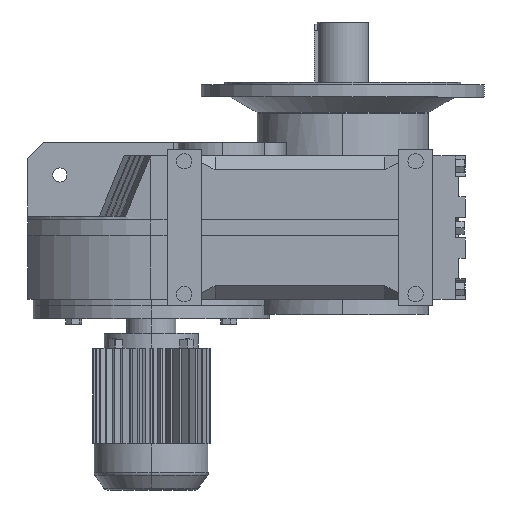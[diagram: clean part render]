
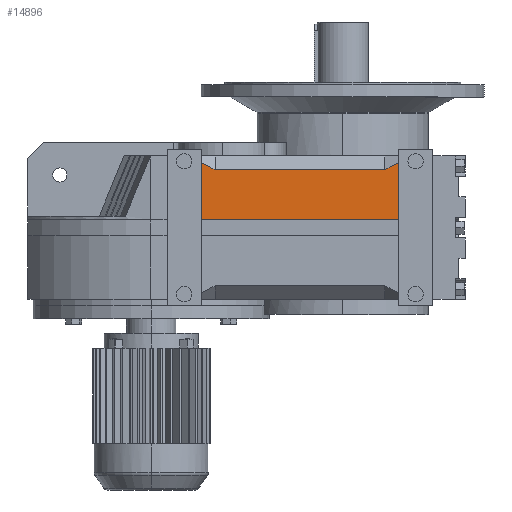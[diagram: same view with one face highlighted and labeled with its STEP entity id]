
A CAD part, left-side view. The second image highlights one B-rep face of the part: STEP entity #14896.
In plain terms, the highlighted planar face has unit normal (-1, 0, 0).
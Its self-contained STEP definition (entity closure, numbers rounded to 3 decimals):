
#314 = PLANE('',#315);
#315 = AXIS2_PLACEMENT_3D('',#316,#317,#318);
#316 = CARTESIAN_POINT('',(-260.44,-117.,0.));
#317 = DIRECTION('',(0.,-1.,0.));
#318 = DIRECTION('',(1.,0.,0.));
#342 = PLANE('',#343);
#343 = AXIS2_PLACEMENT_3D('',#344,#345,#346);
#344 = CARTESIAN_POINT('',(-454.896,-117.,194.456));
#345 = DIRECTION('',(-0.664,-0.342,0.664));
#346 = DIRECTION('',(0.707,0.,0.707)
  );
#370 = PLANE('',#371);
#371 = AXIS2_PLACEMENT_3D('',#372,#373,#374);
#372 = CARTESIAN_POINT('',(-283.44,1.,349.44));
#373 = DIRECTION('',(-0.707,0.,0.707
    ));
#374 = DIRECTION('',(0.707,0.,0.707));
#398 = PLANE('',#399);
#399 = AXIS2_PLACEMENT_3D('',#400,#401,#402);
#400 = CARTESIAN_POINT('',(-454.896,-577.,194.456));
#401 = DIRECTION('',(-0.664,0.342,0.664));
#402 = DIRECTION('',(0.707,0.,0.707));
#426 = PLANE('',#427);
#427 = AXIS2_PLACEMENT_3D('',#428,#429,#430);
#428 = CARTESIAN_POINT('',(-260.44,-577.,0.));
#429 = DIRECTION('',(0.,1.,0.));
#430 = DIRECTION('',(-1.,0.,0.));
#5309 = VERTEX_POINT('',#5310);
#5310 = CARTESIAN_POINT('',(-315.44,-545.,317.44));
#5331 = EDGE_CURVE('',#5332,#5309,#5334,.T.);
#5332 = VERTEX_POINT('',#5333);
#5333 = CARTESIAN_POINT('',(-315.44,-577.,333.911));
#5334 = SURFACE_CURVE('',#5335,(#5339,#5346),.PCURVE_S1.);
#5335 = LINE('',#5336,#5337);
#5336 = CARTESIAN_POINT('',(-315.44,-706.644,400.643));
#5337 = VECTOR('',#5338,1.);
#5338 = DIRECTION('',(0.,0.889,
    -0.458));
#5339 = PCURVE('',#398,#5340);
#5340 = DEFINITIONAL_REPRESENTATION('',(#5341),#5345);
#5341 = LINE('',#5342,#5343);
#5342 = CARTESIAN_POINT('',(244.407,-137.964));
#5343 = VECTOR('',#5344,1.);
#5344 = DIRECTION('',(-0.324,0.946));
#5345 = ( GEOMETRIC_REPRESENTATION_CONTEXT(2) 
PARAMETRIC_REPRESENTATION_CONTEXT() REPRESENTATION_CONTEXT('2D SPACE',''
  ) );
#5346 = PCURVE('',#5347,#5352);
#5347 = PLANE('',#5348);
#5348 = AXIS2_PLACEMENT_3D('',#5349,#5350,#5351);
#5349 = CARTESIAN_POINT('',(-315.44,-733.,349.44));
#5350 = DIRECTION('',(1.,0.,0.));
#5351 = DIRECTION('',(0.,1.,0.));
#5352 = DEFINITIONAL_REPRESENTATION('',(#5353),#5357);
#5353 = LINE('',#5354,#5355);
#5354 = CARTESIAN_POINT('',(26.356,51.203));
#5355 = VECTOR('',#5356,1.);
#5356 = DIRECTION('',(0.889,-0.458));
#5357 = ( GEOMETRIC_REPRESENTATION_CONTEXT(2) 
PARAMETRIC_REPRESENTATION_CONTEXT() REPRESENTATION_CONTEXT('2D SPACE',''
  ) );
#6374 = VERTEX_POINT('',#6375);
#6375 = CARTESIAN_POINT('',(-315.44,-149.,317.44));
#6396 = EDGE_CURVE('',#5309,#6374,#6397,.T.);
#6397 = SURFACE_CURVE('',#6398,(#6402,#6409),.PCURVE_S1.);
#6398 = LINE('',#6399,#6400);
#6399 = CARTESIAN_POINT('',(-315.44,-117.,317.44));
#6400 = VECTOR('',#6401,1.);
#6401 = DIRECTION('',(0.,1.,0.));
#6402 = PCURVE('',#370,#6403);
#6403 = DEFINITIONAL_REPRESENTATION('',(#6404),#6408);
#6404 = LINE('',#6405,#6406);
#6405 = CARTESIAN_POINT('',(-45.255,-118.));
#6406 = VECTOR('',#6407,1.);
#6407 = DIRECTION('',(0.,1.));
#6408 = ( GEOMETRIC_REPRESENTATION_CONTEXT(2) 
PARAMETRIC_REPRESENTATION_CONTEXT() REPRESENTATION_CONTEXT('2D SPACE',''
  ) );
#6409 = PCURVE('',#5347,#6410);
#6410 = DEFINITIONAL_REPRESENTATION('',(#6411),#6415);
#6411 = LINE('',#6412,#6413);
#6412 = CARTESIAN_POINT('',(616.,-32.));
#6413 = VECTOR('',#6414,1.);
#6414 = DIRECTION('',(1.,0.));
#6415 = ( GEOMETRIC_REPRESENTATION_CONTEXT(2) 
PARAMETRIC_REPRESENTATION_CONTEXT() REPRESENTATION_CONTEXT('2D SPACE',''
  ) );
#7068 = EDGE_CURVE('',#7069,#5332,#7071,.T.);
#7069 = VERTEX_POINT('',#7070);
#7070 = CARTESIAN_POINT('',(-315.44,-577.,200.2));
#7071 = SURFACE_CURVE('',#7072,(#7076,#7083),.PCURVE_S1.);
#7072 = LINE('',#7073,#7074);
#7073 = CARTESIAN_POINT('',(-315.44,-577.,349.44));
#7074 = VECTOR('',#7075,1.);
#7075 = DIRECTION('',(0.,0.,1.));
#7076 = PCURVE('',#426,#7077);
#7077 = DEFINITIONAL_REPRESENTATION('',(#7078),#7082);
#7078 = LINE('',#7079,#7080);
#7079 = CARTESIAN_POINT('',(55.,349.44));
#7080 = VECTOR('',#7081,1.);
#7081 = DIRECTION('',(0.,1.));
#7082 = ( GEOMETRIC_REPRESENTATION_CONTEXT(2) 
PARAMETRIC_REPRESENTATION_CONTEXT() REPRESENTATION_CONTEXT('2D SPACE',''
  ) );
#7083 = PCURVE('',#5347,#7084);
#7084 = DEFINITIONAL_REPRESENTATION('',(#7085),#7089);
#7085 = LINE('',#7086,#7087);
#7086 = CARTESIAN_POINT('',(156.,0.));
#7087 = VECTOR('',#7088,1.);
#7088 = DIRECTION('',(0.,1.));
#7089 = ( GEOMETRIC_REPRESENTATION_CONTEXT(2) 
PARAMETRIC_REPRESENTATION_CONTEXT() REPRESENTATION_CONTEXT('2D SPACE',''
  ) );
#7107 = PLANE('',#7108);
#7108 = AXIS2_PLACEMENT_3D('',#7109,#7110,#7111);
#7109 = CARTESIAN_POINT('',(14.732,1.,200.2));
#7110 = DIRECTION('',(0.,0.,-1.));
#7111 = DIRECTION('',(-1.,0.,0.));
#8261 = EDGE_CURVE('',#6374,#8262,#8264,.T.);
#8262 = VERTEX_POINT('',#8263);
#8263 = CARTESIAN_POINT('',(-315.44,-117.,333.911));
#8264 = SURFACE_CURVE('',#8265,(#8269,#8276),.PCURVE_S1.);
#8265 = LINE('',#8266,#8267);
#8266 = CARTESIAN_POINT('',(-315.44,-597.657,86.502));
#8267 = VECTOR('',#8268,1.);
#8268 = DIRECTION('',(0.,0.889,0.458
    ));
#8269 = PCURVE('',#342,#8270);
#8270 = DEFINITIONAL_REPRESENTATION('',(#8271),#8275);
#8271 = LINE('',#8272,#8273);
#8272 = CARTESIAN_POINT('',(22.275,-511.505));
#8273 = VECTOR('',#8274,1.);
#8274 = DIRECTION('',(0.324,0.946));
#8275 = ( GEOMETRIC_REPRESENTATION_CONTEXT(2) 
PARAMETRIC_REPRESENTATION_CONTEXT() REPRESENTATION_CONTEXT('2D SPACE',''
  ) );
#8276 = PCURVE('',#5347,#8277);
#8277 = DEFINITIONAL_REPRESENTATION('',(#8278),#8282);
#8278 = LINE('',#8279,#8280);
#8279 = CARTESIAN_POINT('',(135.343,-262.938));
#8280 = VECTOR('',#8281,1.);
#8281 = DIRECTION('',(0.889,0.458));
#8282 = ( GEOMETRIC_REPRESENTATION_CONTEXT(2) 
PARAMETRIC_REPRESENTATION_CONTEXT() REPRESENTATION_CONTEXT('2D SPACE',''
  ) );
#8926 = VERTEX_POINT('',#8927);
#8927 = CARTESIAN_POINT('',(-315.44,-117.,200.2));
#8948 = EDGE_CURVE('',#8262,#8926,#8949,.T.);
#8949 = SURFACE_CURVE('',#8950,(#8954,#8961),.PCURVE_S1.);
#8950 = LINE('',#8951,#8952);
#8951 = CARTESIAN_POINT('',(-315.44,-117.,349.44));
#8952 = VECTOR('',#8953,1.);
#8953 = DIRECTION('',(0.,0.,-1.));
#8954 = PCURVE('',#314,#8955);
#8955 = DEFINITIONAL_REPRESENTATION('',(#8956),#8960);
#8956 = LINE('',#8957,#8958);
#8957 = CARTESIAN_POINT('',(-55.,349.44));
#8958 = VECTOR('',#8959,1.);
#8959 = DIRECTION('',(0.,-1.));
#8960 = ( GEOMETRIC_REPRESENTATION_CONTEXT(2) 
PARAMETRIC_REPRESENTATION_CONTEXT() REPRESENTATION_CONTEXT('2D SPACE',''
  ) );
#8961 = PCURVE('',#5347,#8962);
#8962 = DEFINITIONAL_REPRESENTATION('',(#8963),#8967);
#8963 = LINE('',#8964,#8965);
#8964 = CARTESIAN_POINT('',(616.,0.));
#8965 = VECTOR('',#8966,1.);
#8966 = DIRECTION('',(0.,-1.));
#8967 = ( GEOMETRIC_REPRESENTATION_CONTEXT(2) 
PARAMETRIC_REPRESENTATION_CONTEXT() REPRESENTATION_CONTEXT('2D SPACE',''
  ) );
#14896 = ADVANCED_FACE('',(#14897),#5347,.F.);
#14897 = FACE_BOUND('',#14898,.T.);
#14898 = EDGE_LOOP('',(#14899,#14900,#14901,#14902,#14903,#14904));
#14899 = ORIENTED_EDGE('',*,*,#7068,.T.);
#14900 = ORIENTED_EDGE('',*,*,#5331,.T.);
#14901 = ORIENTED_EDGE('',*,*,#6396,.T.);
#14902 = ORIENTED_EDGE('',*,*,#8261,.T.);
#14903 = ORIENTED_EDGE('',*,*,#8948,.T.);
#14904 = ORIENTED_EDGE('',*,*,#14905,.F.);
#14905 = EDGE_CURVE('',#7069,#8926,#14906,.T.);
#14906 = SURFACE_CURVE('',#14907,(#14911,#14918),.PCURVE_S1.);
#14907 = LINE('',#14908,#14909);
#14908 = CARTESIAN_POINT('',(-315.44,-733.,200.2));
#14909 = VECTOR('',#14910,1.);
#14910 = DIRECTION('',(0.,1.,0.));
#14911 = PCURVE('',#5347,#14912);
#14912 = DEFINITIONAL_REPRESENTATION('',(#14913),#14917);
#14913 = LINE('',#14914,#14915);
#14914 = CARTESIAN_POINT('',(0.,-149.24));
#14915 = VECTOR('',#14916,1.);
#14916 = DIRECTION('',(1.,0.));
#14917 = ( GEOMETRIC_REPRESENTATION_CONTEXT(2) 
PARAMETRIC_REPRESENTATION_CONTEXT() REPRESENTATION_CONTEXT('2D SPACE',''
  ) );
#14918 = PCURVE('',#7107,#14919);
#14919 = DEFINITIONAL_REPRESENTATION('',(#14920),#14924);
#14920 = LINE('',#14921,#14922);
#14921 = CARTESIAN_POINT('',(330.172,-734.));
#14922 = VECTOR('',#14923,1.);
#14923 = DIRECTION('',(0.,1.));
#14924 = ( GEOMETRIC_REPRESENTATION_CONTEXT(2) 
PARAMETRIC_REPRESENTATION_CONTEXT() REPRESENTATION_CONTEXT('2D SPACE',''
  ) );
